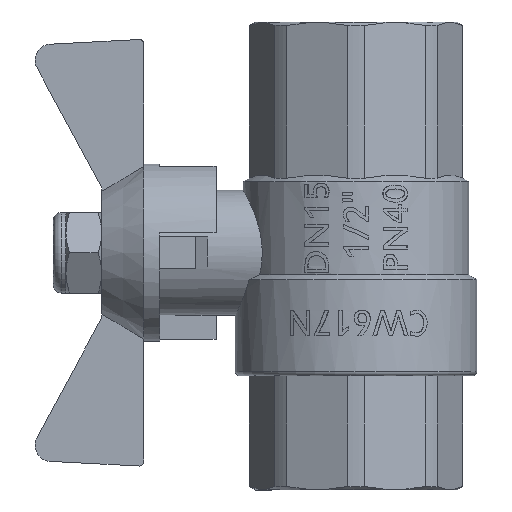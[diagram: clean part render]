
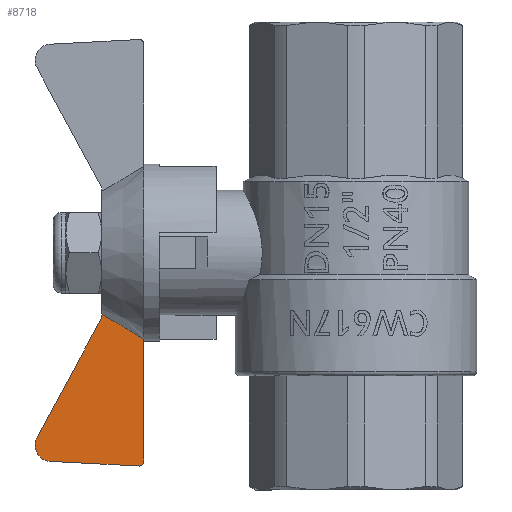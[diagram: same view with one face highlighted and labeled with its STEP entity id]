
A CAD part, left-side view. The second image highlights one B-rep face of the part: STEP entity #8718.
In plain terms, the highlighted planar face has unit normal (-1, 0, 0).
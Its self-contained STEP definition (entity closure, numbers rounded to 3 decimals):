
#65=(
BOUNDED_CURVE()
B_SPLINE_CURVE(2,(#25810,#25811,#25812),.UNSPECIFIED.,.F.,.F.)
B_SPLINE_CURVE_WITH_KNOTS((3,3),(0.,0.605),.UNSPECIFIED.)
CURVE()
GEOMETRIC_REPRESENTATION_ITEM()
RATIONAL_B_SPLINE_CURVE((1.,1.014,1.))
REPRESENTATION_ITEM('')
);
#356=PLANE('',#9304);
#618=CIRCLE('',#9305,2.);
#619=CIRCLE('',#9306,0.5);
#1171=FACE_OUTER_BOUND('',#1715,.T.);
#1715=EDGE_LOOP('',(#7905,#7906,#7907,#7908,#7909,#7910,#7911));
#2239=LINE('',#25416,#2843);
#2331=LINE('',#25805,#2935);
#2334=LINE('',#25814,#2938);
#2335=LINE('',#25818,#2939);
#2843=VECTOR('',#10696,10.);
#2935=VECTOR('',#11010,10.);
#2938=VECTOR('',#11015,10.);
#2939=VECTOR('',#11018,10.);
#4043=VERTEX_POINT('',#25413);
#4044=VERTEX_POINT('',#25415);
#4156=VERTEX_POINT('',#25801);
#4158=VERTEX_POINT('',#25804);
#4160=VERTEX_POINT('',#25813);
#4161=VERTEX_POINT('',#25815);
#4162=VERTEX_POINT('',#25817);
#5264=EDGE_CURVE('',#4044,#4043,#2239,.T.);
#5433=EDGE_CURVE('',#4158,#4156,#2331,.T.);
#5436=EDGE_CURVE('',#4044,#4156,#65,.T.);
#5437=EDGE_CURVE('',#4043,#4160,#2334,.T.);
#5438=EDGE_CURVE('',#4160,#4161,#618,.T.);
#5439=EDGE_CURVE('',#4161,#4162,#2335,.T.);
#5440=EDGE_CURVE('',#4162,#4158,#619,.T.);
#7905=ORIENTED_EDGE('',*,*,#5436,.F.);
#7906=ORIENTED_EDGE('',*,*,#5264,.T.);
#7907=ORIENTED_EDGE('',*,*,#5437,.T.);
#7908=ORIENTED_EDGE('',*,*,#5438,.T.);
#7909=ORIENTED_EDGE('',*,*,#5439,.T.);
#7910=ORIENTED_EDGE('',*,*,#5440,.T.);
#7911=ORIENTED_EDGE('',*,*,#5433,.T.);
#8718=ADVANCED_FACE('',(#1171),#356,.F.);
#9304=AXIS2_PLACEMENT_3D('',#25809,#11013,#11014);
#9305=AXIS2_PLACEMENT_3D('',#25816,#11016,#11017);
#9306=AXIS2_PLACEMENT_3D('',#25819,#11019,#11020);
#10696=DIRECTION('',(0.,0.,-1.));
#11010=DIRECTION('',(0.,0.,1.));
#11013=DIRECTION('center_axis',(1.,0.,0.));
#11014=DIRECTION('ref_axis',(0.,0.,-1.));
#11015=DIRECTION('',(0.,0.475,-0.88));
#11016=DIRECTION('center_axis',(-1.,0.,0.));
#11017=DIRECTION('ref_axis',(0.,0.047,-0.999));
#11018=DIRECTION('',(0.,-0.999,-0.052));
#11019=DIRECTION('center_axis',(-1.,0.,0.));
#11020=DIRECTION('ref_axis',(0.,-1.,0.));
#25413=CARTESIAN_POINT('',(-2.5,31.573,-8.068));
#25415=CARTESIAN_POINT('',(-2.5,31.573,-7.599));
#25416=CARTESIAN_POINT('',(-2.5,31.573,-8.068));
#25801=CARTESIAN_POINT('',(-2.5,26.388,-10.712));
#25804=CARTESIAN_POINT('',(-2.5,26.388,-25.976));
#25805=CARTESIAN_POINT('',(-2.5,26.388,25.976));
#25809=CARTESIAN_POINT('Origin',(-2.5,31.011,0.));
#25810=CARTESIAN_POINT('Ctrl Pts',(-2.5,31.573,-7.599));
#25811=CARTESIAN_POINT('Ctrl Pts',(-2.5,29.421,-8.91));
#25812=CARTESIAN_POINT('Ctrl Pts',(-2.5,26.388,-10.712));
#25813=CARTESIAN_POINT('',(-2.5,39.609,-22.949));
#25814=CARTESIAN_POINT('',(-2.5,39.609,-22.949));
#25815=CARTESIAN_POINT('',(-2.5,37.942,-25.897));
#25816=CARTESIAN_POINT('Origin',(-2.5,37.849,-23.899));
#25817=CARTESIAN_POINT('',(-2.5,26.911,-26.475));
#25818=CARTESIAN_POINT('',(-2.5,26.911,-26.475));
#25819=CARTESIAN_POINT('Origin',(-2.5,26.888,-25.976));
